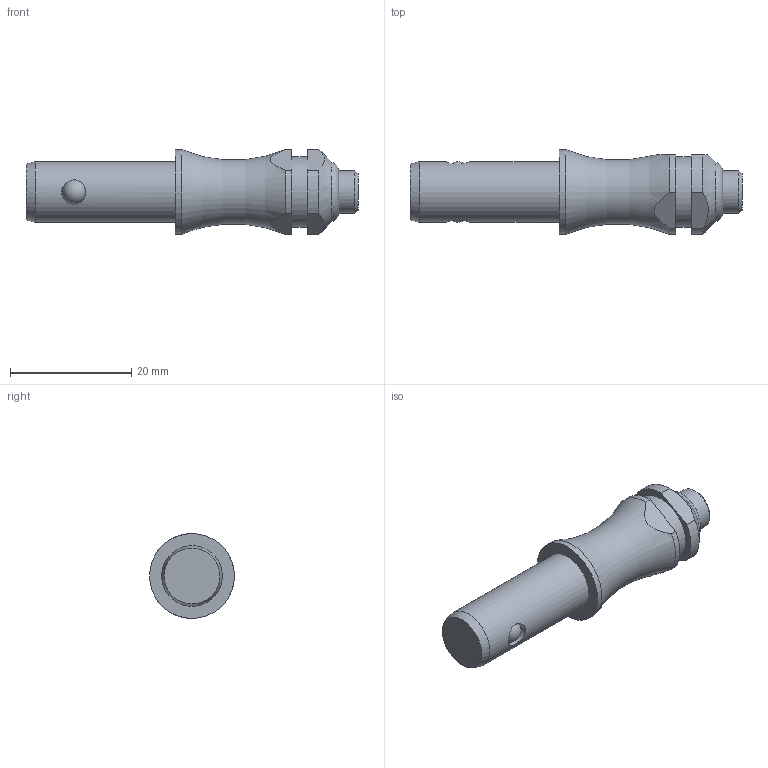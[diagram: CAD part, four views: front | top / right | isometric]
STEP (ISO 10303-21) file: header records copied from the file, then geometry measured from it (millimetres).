
FILE_DESCRIPTION( ( 'STEP AP203' ), '1' );
FILE_NAME( 'C:/Temp/Ganter_Step_05_03_2020/data/3_1/gn113_3/Stainless Steel-Ball lock pin GN 113.3-10-15 (activated).stp', '2020-03-12T08:18:30', ( 'License CC BY-ND 4.0' ), ( 'CADENAS' ), ' ', 'PARTsolutions', ' ' );
FILE_SCHEMA( ( 'CONFIG_CONTROL_DESIGN' ) );
Length unit declared in the file: millimetre
Products named in the file (1): _Stainless Steel-Ball lock pin GN 113.3-10-15 (activated)
Bounding box: 54.75 x 14 x 14 mm (x, y, z)
Volume: 5010 mm3; surface area: 2223.8 mm2
Topology: 1 solids, 1 shells, 30 faces, 72 edges, 45 vertices
Faces by surface type: cylinder 12, plane 11, cone 3, torus 2, sphere 2
Full cylindrical faces by diameter (mm): 4 x2, 7 x1, 10 x1, 11.6 x1, 14 x1
Entity records: 988 total; most frequent: CARTESIAN_POINT 341, DIRECTION 130, ORIENTED_EDGE 102, AXIS2_PLACEMENT_3D 56, EDGE_CURVE 51, EDGE_LOOP 46, VERTEX_POINT 39, FACE_OUTER_BOUND 38
